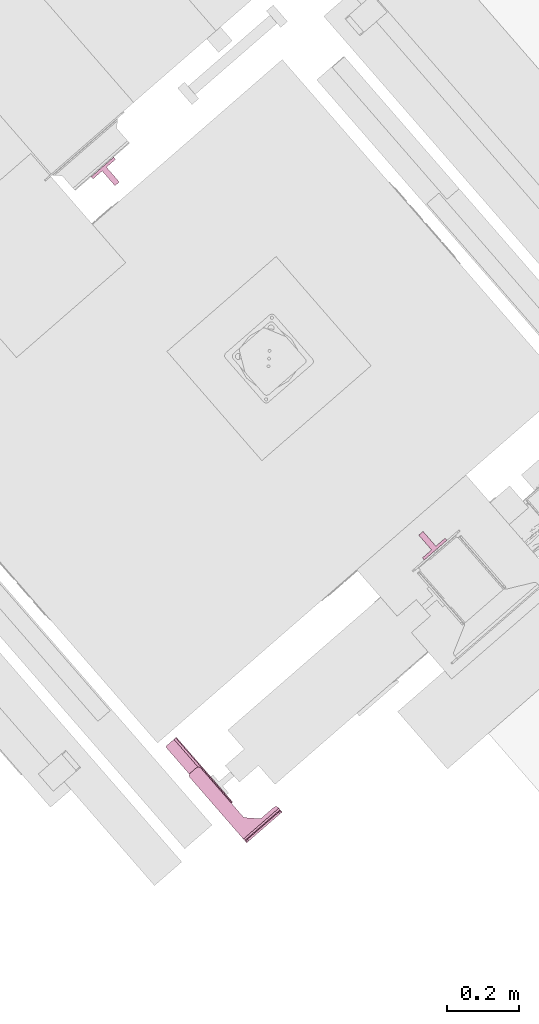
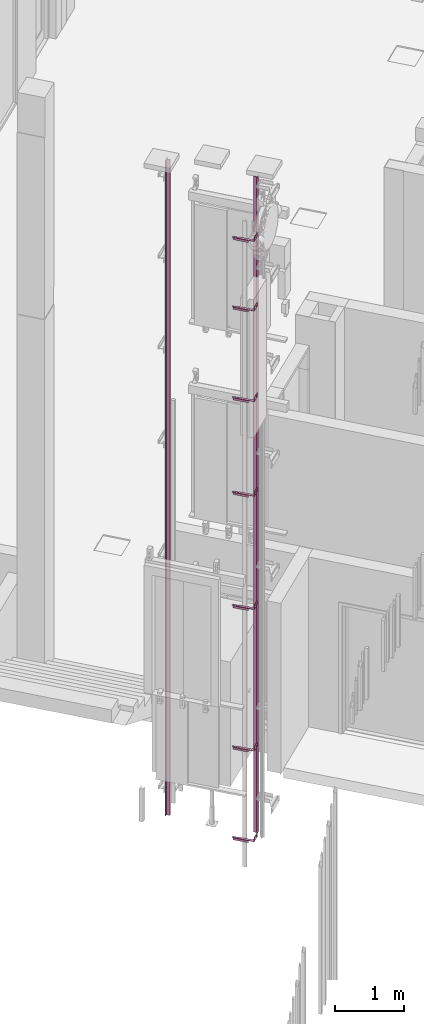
# One storey, part 113 of 124: 9 transport elements.
"""IFC2X3 building model written with IfcOpenShell, lengths in millimetres."""

from ifc_helpers import new_model, entity, si_unit, converted_unit, derived_unit, money_unit, direction, frame, origin_with_axes, place, context, subcontext, project, spatial, faceted_brep, source, transform, mapped, material, material_list, type_object, element, save


model = new_model("IFC2X3")

# Units and contexts
model_context = context("Model", 3, precision=1e-05, world=origin_with_axes(), true_north=direction((0.0, 1.0)))
body_context = subcontext(model_context, "Body", "Model", "MODEL_VIEW")
ifc_project = project(units=[si_unit("LENGTHUNIT", "METRE", prefix="MILLI"), si_unit("AREAUNIT", "SQUARE_METRE"), si_unit("VOLUMEUNIT", "CUBIC_METRE"), converted_unit("PLANEANGLEUNIT", "DEGREE", entity("IfcPlaneAngleMeasure", 0.0174532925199), si_unit("PLANEANGLEUNIT", "RADIAN"), dimensions=[0, 0, 0, 0, 0, 0, 0]), si_unit("SOLIDANGLEUNIT", "STERADIAN"), money_unit("EUR"), converted_unit("TIMEUNIT", "Year", entity("IfcTimeMeasure", 31556926.0), si_unit("TIMEUNIT", "SECOND"), dimensions=[0, 0, 1, 0, 0, 0, 0]), si_unit("MASSUNIT", "GRAM", prefix="KILO"), si_unit("THERMODYNAMICTEMPERATUREUNIT", "DEGREE_CELSIUS"), si_unit("LUMINOUSINTENSITYUNIT", "LUMEN"), si_unit("ENERGYUNIT", "JOULE", prefix="MEGA"), derived_unit("THERMALCONDUCTANCEUNIT", [(si_unit("POWERUNIT", "WATT"), 1), (si_unit("LENGTHUNIT", "METRE"), -1), (si_unit("THERMODYNAMICTEMPERATUREUNIT", "KELVIN"), -1)]), derived_unit("SPECIFICHEATCAPACITYUNIT", [(si_unit("ENERGYUNIT", "JOULE"), 1), (si_unit("MASSUNIT", "GRAM", prefix="KILO"), -1), (si_unit("THERMODYNAMICTEMPERATUREUNIT", "KELVIN"), -1)]), derived_unit("MASSDENSITYUNIT", [(si_unit("MASSUNIT", "GRAM", prefix="KILO"), 1), (si_unit("VOLUMEUNIT", "CUBIC_METRE"), -1)])], contexts=[model_context])

# Site, building, storey
site_placement = place(None, origin_with_axes())
site = spatial("IfcSite", under=ifc_project, at=site_placement, Name="Site", CompositionType="ELEMENT")
building_placement = place(site_placement, origin_with_axes())
building = spatial("IfcBuilding", under=site, at=building_placement, Name="Building", CompositionType="ELEMENT")
storey_placement = place(building_placement, frame((0.0, 0.0, -1615.0), z_axis=(0.0, 0.0, 1.0), x_axis=(1.0, 0.0, 0.0)))
storey = spatial("IfcBuildingStorey", under=building, at=storey_placement, Name="0  korrus", CompositionType="ELEMENT", Elevation=-1615.0)

# Transport elements
ifc_material = material(Name="IFC Building Material")
transport_element_type_1 = type_object("IfcTransportElementType", Name="KONE_Car_guiderail:KONE_Car_guiderail", PredefinedType="NOTDEFINED")
shared_shape_1 = source(origin_with_axes(), body_context, "Body", "Brep", [
    faceted_brep([(-7.94, -62.0, 0.0), (7.94, -62.0, 0.0), (7.94, -62.0, 11580.0), (-7.94, -62.0, 11580.0), (-7.94, -7.9, 0.0), (-41.3333333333, -7.9, 0.0), (-41.3333333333, 0.0, 0.0), (41.3333333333, 0.0, 0.0), (41.3333333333, -7.9, 0.0), (7.94, -7.9, 0.0), (7.94, -7.9, 11580.0), (41.3333333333, -7.9, 11580.0), (41.3333333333, 0.0, 11580.0), (-41.3333333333, 0.0, 11580.0), (-41.3333333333, -7.9, 11580.0), (-7.94, -7.9, 11580.0)], [[[0, 1, 2, 3]], [[0, 4, 5, 6, 7, 8, 9, 1]], [[1, 9, 10, 2]], [[3, 2, 10, 11, 12, 13, 14, 15]], [[4, 0, 3, 15]], [[5, 4, 15, 14]], [[6, 5, 14, 13]], [[7, 6, 13, 12]], [[8, 7, 12, 11]], [[9, 8, 11, 10]]]),
])
transport_element_1_placement = place(storey_placement, frame((146650.445787, 78994.0217534, -1400.0), z_axis=(0.0, 0.0, 1.0), x_axis=(0.754709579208, 0.656059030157, 0.0)))
element("IfcTransportElement", 1, at=transport_element_1_placement, inside=storey, type_object=transport_element_type_1, material=ifc_material, Name="KONE_Car_guiderail:KONE_Car_guiderail", ObjectType="KONE_Car_guiderail", CapacityByNumber=0.0, CapacityByWeight=0.0, OperationType="ELEVATOR", context=body_context, shape_type="MappedRepresentation", body=[
    mapped(shared_shape_1, transform((0.0, 0.0, 0.0))),
])
transport_element_type_2 = type_object("IfcTransportElementType", Name="KONE_Car_guiderail:KONE_Car_guiderail", PredefinedType="NOTDEFINED")
transport_element_2_placement = place(storey_placement, frame((147571.552665, 77934.4095042, -1400.0), z_axis=(0.0, 0.0, 1.0), x_axis=(-0.754709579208, -0.656059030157, 0.0)))
element("IfcTransportElement", 2, at=transport_element_2_placement, inside=storey, type_object=transport_element_type_2, Name="KONE_Car_guiderail:KONE_Car_guiderail", ObjectType="KONE_Car_guiderail", CapacityByNumber=0.0, CapacityByWeight=0.0, OperationType="ELEVATOR", context=body_context, shape_type="MappedRepresentation", body=[
    mapped(shared_shape_1, transform((0.0, 0.0, 0.0))),
])
ifc_material_list = material_list([ifc_material, ifc_material])
transport_element_type_3 = type_object("IfcTransportElementType", Name="KONE_CWT_Bracket_KM838255G01_L109-178_LH:KONE_CWT_Bracket_KM838255G01_L109-178_LH", PredefinedType="NOTDEFINED")
shared_shape_2 = source(origin_with_axes(), body_context, "Body", "Brep", [
    faceted_brep([(46.6400852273, -343.595272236, 116.596160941), (56.6400852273, -343.595272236, 116.596160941), (56.6400852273, -349.595272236, 116.596160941), (46.6400852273, -349.595272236, 116.596160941), (9.59527223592, -343.595272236, 153.595272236), (59.2538974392, -343.595272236, 113.982348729), (59.2538974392, -349.595272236, 113.982348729), (9.59527223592, -349.595272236, 153.595272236), (44.0262730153, -349.595272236, 113.982348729), (44.0262730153, -343.595272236, 113.982348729), (81.0388982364, -343.595272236, 120.59504523), (74.9960586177, -343.595272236, 117.030325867), (56.6400852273, -343.595272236, 111.368536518), (56.6400852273, -349.595272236, 111.368536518), (74.9960586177, -349.595272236, 117.030325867), (81.0388982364, -349.595272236, 120.59504523), (46.6400852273, -349.595272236, 111.368536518), (46.6400852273, -343.595272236, 111.368536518), (1.59527223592, -343.595272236, 145.595272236), (123.595272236, -343.595272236, 153.595272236), (75.0802070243, -343.595272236, 110.014910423), (75.0802070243, -349.595272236, 110.014910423), (123.595272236, -349.595272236, 153.595272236), (1.59527223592, -349.595272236, 145.595272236), (1.59527223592, -343.595272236, 82.5952722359), (1.59527223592, -349.595272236, 82.5952722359), (3.93841798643, -343.595272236, 151.252126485), (112.151646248, -343.595272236, 120.59504523), (81.2068118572, -343.595272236, 106.596160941), (81.2068118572, -349.595272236, 106.596160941), (112.151646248, -349.595272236, 120.59504523), (3.93841798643, -349.595272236, 151.252126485), (1.59527223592, -341.252126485, 76.9384179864), (1.59527223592, -335.595272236, 74.5952722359), (1.59527223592, -109.595272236, 74.5952722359), (1.59527223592, -109.595272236, 68.5952722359), (1.59527223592, -335.595272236, 68.5952722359), (1.59527223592, -338.07014597, 69.6203985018), (1.59527223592, -340.545019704, 70.6455247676), (1.59527223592, -343.019893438, 71.6706510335), (1.59527223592, -345.494767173, 72.6957772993), (1.59527223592, -346.519893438, 75.1706510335), (1.59527223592, -347.545019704, 77.6455247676), (1.59527223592, -348.57014597, 80.1203985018), (129.252126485, -349.595272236, 151.252126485), (129.252126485, -343.595272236, 151.252126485), (131.595272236, -343.595272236, 145.595272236), (131.595272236, -349.595272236, 145.595272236), (50.9754323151, -343.595272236, 82.5952722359), (50.9754325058, -335.595272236, 74.5952722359), (91.285352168, -335.595272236, 74.5952722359), (131.595272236, -335.595272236, 74.5952722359), (131.595272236, -332.630143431, 74.5952722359), (129.252126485, -326.973289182, 74.5952722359), (123.595272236, -324.630143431, 74.5952722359), (77.9438519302, -324.630143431, 74.5952722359), (74.8823844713, -324.021179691, 74.5952722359), (72.2869976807, -322.286997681, 74.5952722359), (43.9384179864, -293.938417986, 74.5952722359), (42.2042359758, -291.343031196, 74.5952722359), (41.5952722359, -288.281563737, 74.5952722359), (41.5952722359, -109.595272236, 74.5952722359), (39.2521264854, -103.938417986, 74.5952722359), (33.5952722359, -101.595272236, 74.5952722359), (9.59527223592, -101.595272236, 74.5952722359), (3.93841798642, -103.938417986, 74.5952722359), (3.93841798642, -103.938417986, 68.5952722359), (131.595272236, -332.630143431, 68.5952722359), (131.595272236, -335.595272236, 68.5952722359), (9.59527223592, -101.595272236, 68.5952722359), (33.5952722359, -101.595272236, 68.5952722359), (39.2521264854, -103.938417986, 68.5952722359), (41.5952722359, -109.595272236, 68.5952722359), (41.5952722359, -288.281563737, 68.5952722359), (42.2042359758, -291.343031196, 68.5952722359), (43.9384179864, -293.938417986, 68.5952722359), (72.2869976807, -322.286997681, 68.5952722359), (74.8823844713, -324.021179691, 68.5952722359), (77.9438519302, -324.630143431, 68.5952722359), (123.595272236, -324.630143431, 68.5952722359), (129.252126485, -326.973289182, 68.5952722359), (131.595272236, -345.494767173, 72.6957772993), (131.595272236, -337.806119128, 69.5110350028), (131.595272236, -340.545019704, 70.6455247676), (131.595272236, -343.019893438, 71.6706510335), (131.595272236, -346.519893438, 75.1706510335), (131.595272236, -347.545019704, 77.6455247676), (131.595272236, -348.679509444, 80.3844252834), (131.595272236, -349.595272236, 82.5952722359), (118.15765087, -343.595272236, 117.094924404), (118.15765087, -349.595272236, 117.094924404), (112.206811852, -349.595272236, 106.596160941), (112.206811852, -343.595272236, 106.596160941), (66.5952760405, -341.252126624, 76.9384181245), (131.595272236, -341.252126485, 76.9384179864), (131.595272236, -343.595272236, 82.5952722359), (118.185044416, -343.595272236, 110.143508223), (118.185044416, -349.595272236, 110.143508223), (82.2151121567, -343.595272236, 82.5952722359)], [[[0, 1, 2, 3]], [[0, 4, 1]], [[2, 1, 5, 6]], [[2, 7, 3]], [[8, 9, 0, 3]], [[4, 0, 9]], [[10, 1, 4]], [[1, 11, 5]], [[6, 5, 12, 13]], [[14, 2, 6]], [[15, 7, 2]], [[8, 3, 7]], [[16, 17, 9, 8]], [[18, 4, 9]], [[1, 10, 11]], [[10, 4, 19]], [[20, 5, 11]], [[20, 12, 5]], [[17, 16, 13, 12]], [[13, 21, 6]], [[14, 15, 2]], [[21, 14, 6]], [[15, 22, 7]], [[8, 7, 23]], [[24, 9, 17]], [[16, 8, 25]], [[18, 26, 4]], [[24, 18, 9]], [[10, 15, 14, 11]], [[4, 7, 22, 19]], [[27, 10, 19]], [[20, 11, 14, 21]], [[20, 28, 12]], [[16, 25, 13]], [[24, 17, 12]], [[29, 21, 13]], [[22, 15, 30]], [[7, 31, 23]], [[23, 25, 8]], [[23, 31, 26, 18]], [[26, 31, 7, 4]], [[18, 24, 32, 33, 34, 35, 36, 37, 38, 39, 40, 41, 42, 43, 25, 23]], [[27, 30, 15, 10]], [[22, 44, 45, 19]], [[19, 46, 27]], [[20, 21, 29, 28]], [[28, 24, 12]], [[25, 29, 13]], [[22, 30, 47]], [[32, 24, 48]], [[49, 33, 32]], [[34, 33, 49, 50, 51, 52, 53, 54, 55, 56, 57, 58, 59, 60, 61, 62, 63, 64, 65]], [[66, 35, 34, 65]], [[67, 68, 36, 35, 66, 69, 70, 71, 72, 73, 74, 75, 76, 77, 78, 79, 80]], [[81, 40, 39, 38, 37, 36, 68, 82, 83, 84]], [[42, 41, 40, 81, 85, 86, 87, 88, 25, 43]], [[89, 90, 30, 27]], [[47, 44, 22]], [[45, 44, 47, 46]], [[19, 45, 46]], [[27, 46, 89]], [[28, 29, 91, 92]], [[28, 48, 24]], [[88, 29, 25]], [[47, 30, 90]], [[32, 48, 93]], [[49, 32, 93]], [[50, 49, 93]], [[94, 51, 50]], [[47, 88, 87, 86, 85, 81, 84, 83, 82, 68, 67, 52, 51, 94, 95, 46]], [[52, 67, 80, 53]], [[80, 79, 54, 53]], [[78, 55, 54, 79]], [[55, 78, 77, 56]], [[57, 56, 77, 76]], [[58, 57, 76, 75]], [[58, 75, 74, 59]], [[60, 59, 74, 73]], [[61, 60, 73, 72]], [[61, 72, 71, 62]], [[71, 70, 63, 62]], [[69, 64, 63, 70]], [[64, 69, 66, 65]], [[89, 96, 97, 90]], [[95, 89, 46]], [[91, 29, 88]], [[92, 91, 97, 96]], [[28, 92, 95]], [[28, 98, 48]], [[90, 88, 47]], [[98, 93, 48]], [[94, 50, 93]], [[98, 95, 94]], [[89, 95, 96]], [[88, 90, 97]], [[88, 97, 91]], [[96, 95, 92]], [[28, 95, 98]], [[93, 98, 94]]]),
    faceted_brep([(10.5952722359, -1.59527223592, 64.5952722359), (7.76684511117, -2.76684511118, 64.5952722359), (7.76684511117, -2.76684511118, 68.5952722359), (10.5952722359, -1.59527223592, 68.5952722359), (37.5952722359, -1.59527223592, 64.5952722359), (37.5952722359, -40.6337157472, 64.5952722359), (37.5952722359, -61.0952722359, 64.5952722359), (37.5952722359, -90.8452722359, 64.5952722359), (37.5952722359, -120.595272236, 64.5952722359), (37.5952722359, -161.518385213, 64.5952722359), (37.5952722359, -200.556828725, 64.5952722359), (37.5952722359, -239.595272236, 64.5952722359), (10.5952722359, -239.595272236, 64.5952722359), (7.76684511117, -238.423699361, 64.5952722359), (6.59527223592, -235.595272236, 64.5952722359), (6.59527223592, -5.59527223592, 64.5952722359), (6.59527223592, -5.59527223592, 68.5952722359), (10.5952722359, -239.595272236, 68.5952722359), (37.5952722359, -239.595272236, 68.5952722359), (37.5952722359, -187.219704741, 68.5952722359), (37.5952722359, -120.595273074, 68.5952722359), (37.5952722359, -53.9708414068, 68.5952722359), (37.5952722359, -1.59527223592, 68.5952722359), (6.59527223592, -235.595272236, 68.5952722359), (7.76684511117, -238.423699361, 68.5952722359), (43.9592332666, -1.59527223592, 65.9592332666), (46.5952722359, -1.59527223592, 59.5952722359), (46.5952722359, -1.59527223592, 5.59527223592), (42.595272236, -1.59527223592, 5.59527223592), (42.5952722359, -1.59527223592, 59.5952722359), (41.1308061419, -1.59527223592, 63.1308061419), (41.1308061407, -50.8644924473, 63.130806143), (40.7903262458, -78.3268674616, 63.4412610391), (41.1834180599, -105.720269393, 63.0773993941), (41.0741518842, -138.30928908, 63.1865667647), (41.130806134, -181.037602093, 63.1308061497), (41.0972980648, -210.316433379, 63.1639996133), (41.1308061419, -239.595272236, 63.1308061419), (42.5952722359, -239.595272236, 59.5952722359), (42.5952722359, -239.595272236, 5.59527223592), (46.5952722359, -239.595272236, 5.59527223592), (46.5952722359, -239.595272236, 59.5952722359), (43.9592332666, -239.595272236, 65.9592332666), (43.9592329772, -189.258383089, 65.959233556), (44.2622655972, -135.545313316, 65.6410310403), (43.9592332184, -80.158621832, 65.9592333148), (46.5952722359, -53.9708403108, 59.5952722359), (46.5952722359, -106.346409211, 59.5952722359), (46.5952722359, -187.219702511, 59.5952722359), (46.5952722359, -238.423699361, 2.76684511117), (46.5952722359, -235.595272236, 1.59527223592), (46.595272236, -5.59527223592, 1.59527223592), (46.5952722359, -2.76684511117, 2.76684511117), (42.5952722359, -2.76684511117, 2.76684511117), (42.5952722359, -200.556828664, 59.5952722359), (42.5952722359, -161.518385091, 59.5952722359), (42.5952722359, -122.479941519, 59.5952722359), (42.5952722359, -83.441497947, 59.5952722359), (42.5952722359, -40.6337150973, 59.5952722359), (42.5952722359, -5.59527223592, 1.59527223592), (42.595272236, -235.595272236, 1.59527223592), (42.5952722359, -238.423699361, 2.76684511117)], [[[0, 1, 2, 3]], [[0, 4, 5, 6, 7, 8, 9, 10, 11, 12, 13, 14, 15, 1]], [[2, 1, 15, 16]], [[17, 18, 19, 20, 21, 22, 3, 2, 16, 23, 24]], [[22, 25, 26, 27, 28, 29, 30, 4, 0, 3]], [[5, 4, 30, 31, 6]], [[6, 32, 7]], [[8, 7, 33]], [[34, 9, 8]], [[9, 35, 10]], [[10, 36, 11]], [[11, 37, 38, 39, 40, 41, 42, 18, 17, 12]], [[24, 13, 12, 17]], [[14, 13, 24, 23]], [[14, 23, 16, 15]], [[18, 43, 19]], [[19, 44, 20]], [[20, 45, 21]], [[25, 22, 21]], [[46, 26, 25]], [[27, 26, 46, 47, 48, 41, 40, 49, 50, 51, 52]], [[53, 28, 27, 52]], [[39, 38, 54, 55, 56, 57, 58, 29, 28, 53, 59, 60, 61]], [[58, 57, 31, 30, 29]], [[31, 32, 6]], [[32, 33, 7]], [[33, 34, 8]], [[35, 9, 34]], [[10, 35, 36]], [[36, 37, 11]], [[38, 37, 36]], [[39, 61, 49, 40]], [[41, 43, 42]], [[42, 43, 18]], [[19, 43, 44]], [[20, 44, 45]], [[45, 25, 21]], [[25, 45, 47, 46]], [[48, 47, 44]], [[41, 48, 43]], [[49, 61, 60, 50]], [[59, 51, 50, 60]], [[51, 59, 53, 52]], [[36, 54, 38]], [[55, 54, 35]], [[34, 56, 55]], [[33, 57, 56]], [[31, 57, 32]], [[33, 32, 57]], [[34, 33, 56]], [[55, 35, 34]], [[54, 36, 35]], [[44, 43, 48]], [[45, 44, 47]]]),
])
transport_element_3_placement = place(storey_placement, frame((146818.711022, 77388.0890421, -963.622839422), z_axis=(0.0, 0.0, 1.0), x_axis=(0.754709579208, 0.656059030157, 0.0)))
element("IfcTransportElement", 3, at=transport_element_3_placement, inside=storey, type_object=transport_element_type_3, material=ifc_material_list, Name="KONE_CWT_Bracket_KM838255G01_L109-178_LH:KONE_CWT_Bracket_KM838255G01_L109-178_LH", ObjectType="KONE_CWT_Bracket_KM838255G01_L109-178_LH", CapacityByNumber=0.0, CapacityByWeight=0.0, OperationType="ELEVATOR", context=body_context, shape_type="MappedRepresentation", body=[
    mapped(shared_shape_2, transform((0.0, 0.0, 0.0))),
])
transport_element_type_4 = type_object("IfcTransportElementType", Name="KONE_CWT_Bracket_KM838255G01_L109-178_LH:KONE_CWT_Bracket_KM838255G01_L109-178_LH", PredefinedType="NOTDEFINED")
transport_element_4_placement = place(storey_placement, frame((146818.711022, 77388.0890421, 636.377211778), z_axis=(0.0, 0.0, 1.0), x_axis=(0.754709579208, 0.656059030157, 0.0)))
element("IfcTransportElement", 4, at=transport_element_4_placement, inside=storey, type_object=transport_element_type_4, Name="KONE_CWT_Bracket_KM838255G01_L109-178_LH:KONE_CWT_Bracket_KM838255G01_L109-178_LH", ObjectType="KONE_CWT_Bracket_KM838255G01_L109-178_LH", CapacityByNumber=0.0, CapacityByWeight=0.0, OperationType="ELEVATOR", context=body_context, shape_type="MappedRepresentation", body=[
    mapped(shared_shape_2, transform((0.0, 0.0, 0.0))),
])
transport_element_type_5 = type_object("IfcTransportElementType", Name="KONE_CWT_Bracket_KM838255G01_L109-178_LH:KONE_CWT_Bracket_KM838255G01_L109-178_LH", PredefinedType="NOTDEFINED")
transport_element_5_placement = place(storey_placement, frame((146818.711022, 77388.0890421, 3136.37729178), z_axis=(0.0, 0.0, 1.0), x_axis=(0.754709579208, 0.656059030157, 0.0)))
element("IfcTransportElement", 5, at=transport_element_5_placement, inside=storey, type_object=transport_element_type_5, Name="KONE_CWT_Bracket_KM838255G01_L109-178_LH:KONE_CWT_Bracket_KM838255G01_L109-178_LH", ObjectType="KONE_CWT_Bracket_KM838255G01_L109-178_LH", CapacityByNumber=0.0, CapacityByWeight=0.0, OperationType="ELEVATOR", context=body_context, shape_type="MappedRepresentation", body=[
    mapped(shared_shape_2, transform((0.0, 0.0, 0.0))),
])
transport_element_type_6 = type_object("IfcTransportElementType", Name="KONE_CWT_Bracket_KM838255G01_L109-178_LH:KONE_CWT_Bracket_KM838255G01_L109-178_LH", PredefinedType="NOTDEFINED")
transport_element_6_placement = place(storey_placement, frame((146818.711022, 77388.0890421, 5136.37735578), z_axis=(0.0, 0.0, 1.0), x_axis=(0.754709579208, 0.656059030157, 0.0)))
element("IfcTransportElement", 6, at=transport_element_6_placement, inside=storey, type_object=transport_element_type_6, Name="KONE_CWT_Bracket_KM838255G01_L109-178_LH:KONE_CWT_Bracket_KM838255G01_L109-178_LH", ObjectType="KONE_CWT_Bracket_KM838255G01_L109-178_LH", CapacityByNumber=0.0, CapacityByWeight=0.0, OperationType="ELEVATOR", context=body_context, shape_type="MappedRepresentation", body=[
    mapped(shared_shape_2, transform((0.0, 0.0, 0.0))),
])
transport_element_type_7 = type_object("IfcTransportElementType", Name="KONE_CWT_Bracket_KM838255G01_L109-178_LH:KONE_CWT_Bracket_KM838255G01_L109-178_LH", PredefinedType="NOTDEFINED")
transport_element_7_placement = place(storey_placement, frame((146818.711022, 77388.0890421, 6806.37740922), z_axis=(0.0, 0.0, 1.0), x_axis=(0.754709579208, 0.656059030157, 0.0)))
element("IfcTransportElement", 7, at=transport_element_7_placement, inside=storey, type_object=transport_element_type_7, Name="KONE_CWT_Bracket_KM838255G01_L109-178_LH:KONE_CWT_Bracket_KM838255G01_L109-178_LH", ObjectType="KONE_CWT_Bracket_KM838255G01_L109-178_LH", CapacityByNumber=0.0, CapacityByWeight=0.0, OperationType="ELEVATOR", context=body_context, shape_type="MappedRepresentation", body=[
    mapped(shared_shape_2, transform((0.0, 0.0, 0.0))),
])
transport_element_type_8 = type_object("IfcTransportElementType", Name="KONE_CWT_Bracket_KM838255G01_L109-178_LH:KONE_CWT_Bracket_KM838255G01_L109-178_LH", PredefinedType="NOTDEFINED")
transport_element_8_placement = place(storey_placement, frame((146818.711022, 77388.0890421, 8406.37746042), z_axis=(0.0, 0.0, 1.0), x_axis=(0.754709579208, 0.656059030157, 0.0)))
element("IfcTransportElement", 8, at=transport_element_8_placement, inside=storey, type_object=transport_element_type_8, Name="KONE_CWT_Bracket_KM838255G01_L109-178_LH:KONE_CWT_Bracket_KM838255G01_L109-178_LH", ObjectType="KONE_CWT_Bracket_KM838255G01_L109-178_LH", CapacityByNumber=0.0, CapacityByWeight=0.0, OperationType="ELEVATOR", context=body_context, shape_type="MappedRepresentation", body=[
    mapped(shared_shape_2, transform((0.0, 0.0, 0.0))),
])
transport_element_type_9 = type_object("IfcTransportElementType", Name="KONE_CWT_Bracket_KM838255G01_L109-178_LH:KONE_CWT_Bracket_KM838255G01_L109-178_LH", PredefinedType="NOTDEFINED")
transport_element_9_placement = place(storey_placement, frame((146818.711022, 77388.0890421, 9636.37749978), z_axis=(0.0, 0.0, 1.0), x_axis=(0.754709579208, 0.656059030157, 0.0)))
element("IfcTransportElement", 9, at=transport_element_9_placement, inside=storey, type_object=transport_element_type_9, Name="KONE_CWT_Bracket_KM838255G01_L109-178_LH:KONE_CWT_Bracket_KM838255G01_L109-178_LH", ObjectType="KONE_CWT_Bracket_KM838255G01_L109-178_LH", CapacityByNumber=0.0, CapacityByWeight=0.0, OperationType="ELEVATOR", context=body_context, shape_type="MappedRepresentation", body=[
    mapped(shared_shape_2, transform((0.0, 0.0, 0.0))),
])

save(model, "model.ifc")
